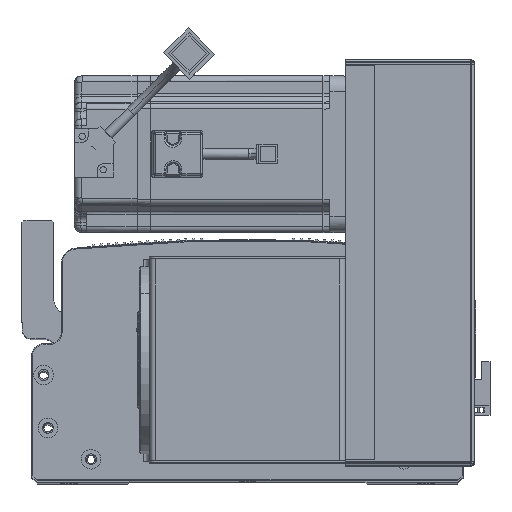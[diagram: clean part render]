
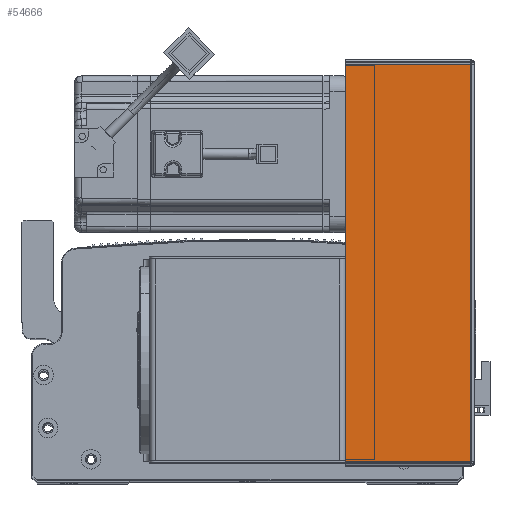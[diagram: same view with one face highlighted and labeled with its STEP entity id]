
A CAD part, top view. The second image highlights one B-rep face of the part: STEP entity #54666.
In plain terms, the highlighted planar face has unit normal (0, 0, 1) as drawn and (0, -1, 0) by its records, which use the part's own axes.
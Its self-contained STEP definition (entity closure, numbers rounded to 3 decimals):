
#112 = ORIENTED_EDGE ( 'NONE', *, *, #57230, .F. ) ;
#645 = EDGE_CURVE ( 'NONE', #43014, #29738, #53611, .T. ) ;
#1100 = CARTESIAN_POINT ( 'NONE',  ( 0.737, -1.5, -0.707 ) ) ;
#3825 = AXIS2_PLACEMENT_3D ( 'NONE', #43779, #37472, #75524 ) ;
#3838 = LINE ( 'NONE', #47102, #8801 ) ;
#8462 = EDGE_LOOP ( 'NONE', ( #112, #65653, #71187, #18783 ) ) ;
#8640 = LINE ( 'NONE', #8740, #65452 ) ;
#8740 = CARTESIAN_POINT ( 'NONE',  ( 0.737, -1.5, 0. ) ) ;
#8801 = VECTOR ( 'NONE', #15334, 1000. ) ;
#13823 = DIRECTION ( 'NONE',  ( 0., 0., 1. ) ) ;
#15334 = DIRECTION ( 'NONE',  ( 1., 0., 0. ) ) ;
#18783 = ORIENTED_EDGE ( 'NONE', *, *, #60829, .F. ) ;
#23205 = CARTESIAN_POINT ( 'NONE',  ( 64.5, -1.5, -0.707 ) ) ;
#29132 = VECTOR ( 'NONE', #13823, 1000. ) ;
#29738 = VERTEX_POINT ( 'NONE', #23205 ) ;
#32738 = CARTESIAN_POINT ( 'NONE',  ( 64.5, -1.5, 0. ) ) ;
#36618 = CARTESIAN_POINT ( 'NONE',  ( 0., -1.5, -0.707 ) ) ;
#37472 = DIRECTION ( 'NONE',  ( 0., 1., 0. ) ) ;
#43014 = VERTEX_POINT ( 'NONE', #77318 ) ;
#43779 = CARTESIAN_POINT ( 'NONE',  ( 0., -1.5, 0. ) ) ;
#46635 = LINE ( 'NONE', #36618, #52509 ) ;
#47102 = CARTESIAN_POINT ( 'NONE',  ( 0., -1.5, -203.293 ) ) ;
#52509 = VECTOR ( 'NONE', #55761, 1000. ) ;
#53611 = LINE ( 'NONE', #32738, #29132 ) ;
#54666 = ADVANCED_FACE ( 'NONE', ( #71736 ), #56072, .F. ) ;
#55761 = DIRECTION ( 'NONE',  ( 1., 0., 0. ) ) ;
#56072 = PLANE ( 'NONE',  #3825 ) ;
#57230 = EDGE_CURVE ( 'NONE', #81081, #65515, #8640, .T. ) ;
#60829 = EDGE_CURVE ( 'NONE', #65515, #29738, #46635, .T. ) ;
#65452 = VECTOR ( 'NONE', #70650, 1000. ) ;
#65515 = VERTEX_POINT ( 'NONE', #1100 ) ;
#65653 = ORIENTED_EDGE ( 'NONE', *, *, #74620, .T. ) ;
#70650 = DIRECTION ( 'NONE',  ( 0., 0., 1. ) ) ;
#71187 = ORIENTED_EDGE ( 'NONE', *, *, #645, .T. ) ;
#71736 = FACE_OUTER_BOUND ( 'NONE', #8462, .T. ) ;
#74501 = CARTESIAN_POINT ( 'NONE',  ( 0.737, -1.5, -203.293 ) ) ;
#74620 = EDGE_CURVE ( 'NONE', #81081, #43014, #3838, .T. ) ;
#75524 = DIRECTION ( 'NONE',  ( -1., 0., 0. ) ) ;
#77318 = CARTESIAN_POINT ( 'NONE',  ( 64.5, -1.5, -203.293 ) ) ;
#81081 = VERTEX_POINT ( 'NONE', #74501 ) ;
